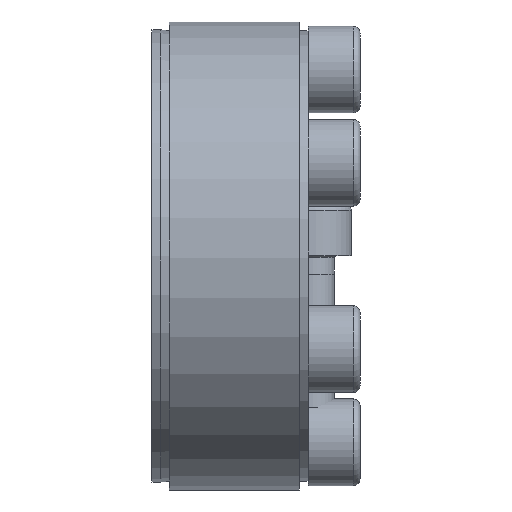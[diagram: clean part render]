
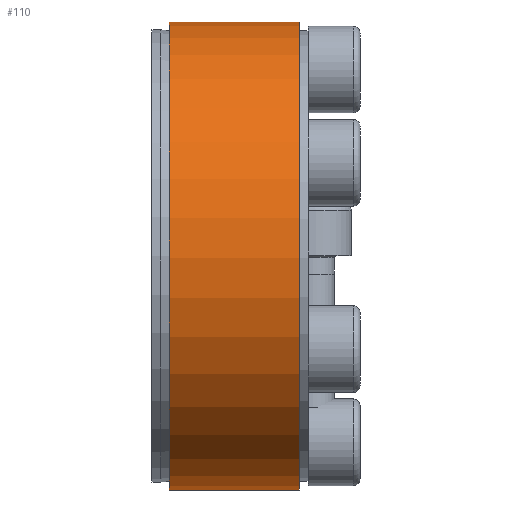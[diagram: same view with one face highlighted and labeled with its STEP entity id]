
A CAD part, left-side view. The second image highlights one B-rep face of the part: STEP entity #110.
In plain terms, the highlighted cylindrical face has radius 27 mm (diameter 54 mm), a partial arc.
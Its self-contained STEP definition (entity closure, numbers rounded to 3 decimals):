
#110 = ADVANCED_FACE( '', ( #232 ), #233, .T. );
#232 = FACE_OUTER_BOUND( '', #358, .T. );
#233 = CYLINDRICAL_SURFACE( '', #359, 27. );
#358 = EDGE_LOOP( '', ( #606, #607, #608, #609 ) );
#359 = AXIS2_PLACEMENT_3D( '', #610, #611, #612 );
#606 = ORIENTED_EDGE( '', *, *, #726, .F. );
#607 = ORIENTED_EDGE( '', *, *, #769, .T. );
#608 = ORIENTED_EDGE( '', *, *, #754, .T. );
#609 = ORIENTED_EDGE( '', *, *, #764, .F. );
#610 = CARTESIAN_POINT( '', ( 0., -60., 0. ) );
#611 = DIRECTION( '', ( 0., 1., 0. ) );
#612 = DIRECTION( '', ( 0., 0., -1. ) );
#726 = EDGE_CURVE( '', #887, #888, #889, .T. );
#754 = EDGE_CURVE( '', #919, #931, #933, .T. );
#764 = EDGE_CURVE( '', #888, #931, #949, .T. );
#769 = EDGE_CURVE( '', #887, #919, #955, .T. );
#887 = VERTEX_POINT( '', #1170 );
#888 = VERTEX_POINT( '', #1171 );
#889 = LINE( '', #1172, #1173 );
#919 = VERTEX_POINT( '', #1217 );
#931 = VERTEX_POINT( '', #1236 );
#933 = LINE( '', #1239, #1240 );
#949 = CIRCLE( '', #1256, 27. );
#955 = CIRCLE( '', #1262, 27. );
#1170 = CARTESIAN_POINT( '', ( 12.845, 16., 23.749 ) );
#1171 = CARTESIAN_POINT( '', ( 12.845, 1., 23.749 ) );
#1172 = CARTESIAN_POINT( '', ( 12.845, -60., 23.749 ) );
#1173 = VECTOR( '', #1351, 1000. );
#1217 = CARTESIAN_POINT( '', ( 14.144, 16., 22.999 ) );
#1236 = CARTESIAN_POINT( '', ( 14.144, 1., 22.999 ) );
#1239 = CARTESIAN_POINT( '', ( 14.144, -60., 22.999 ) );
#1240 = VECTOR( '', #1383, 1000. );
#1256 = AXIS2_PLACEMENT_3D( '', #1402, #1403, #1404 );
#1262 = AXIS2_PLACEMENT_3D( '', #1411, #1412, #1413 );
#1351 = DIRECTION( '', ( 0., -1., 0. ) );
#1383 = DIRECTION( '', ( 0., -1., 0. ) );
#1402 = CARTESIAN_POINT( '', ( 0., 1., 0. ) );
#1403 = DIRECTION( '', ( 0., -1., 0. ) );
#1404 = DIRECTION( '', ( 0., 0., -1. ) );
#1411 = CARTESIAN_POINT( '', ( 0., 16., 0. ) );
#1412 = DIRECTION( '', ( 0., -1., 0. ) );
#1413 = DIRECTION( '', ( 0., 0., -1. ) );
